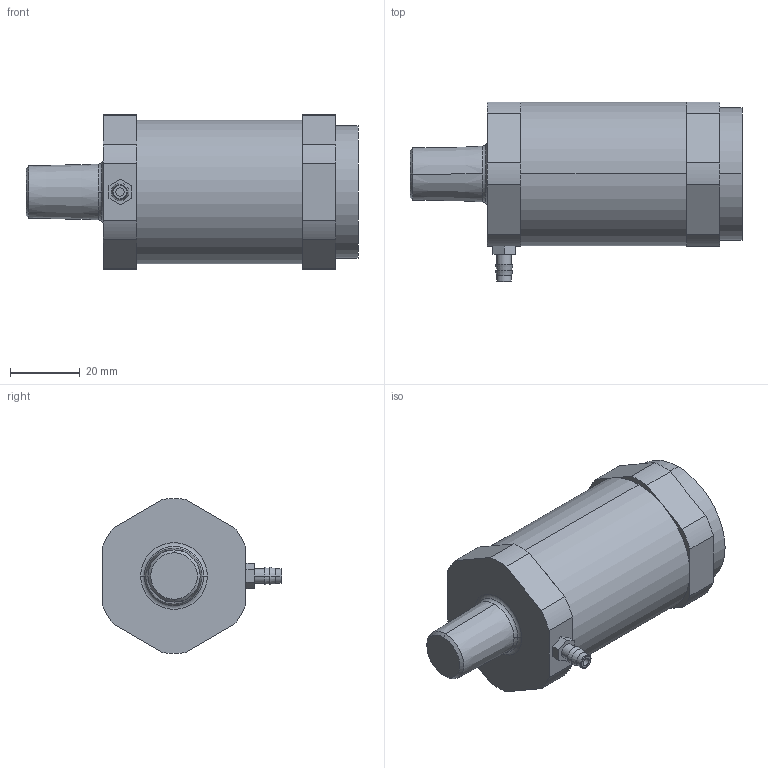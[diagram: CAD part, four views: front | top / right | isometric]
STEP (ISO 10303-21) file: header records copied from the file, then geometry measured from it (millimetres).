
FILE_DESCRIPTION((''),'2;1');
FILE_NAME('UC4_ASM','2017-08-24T',('jennifer.elliott'),('CenterLine (Windsor) Ltd - Automation Components Division'),'PRO/ENGINEER BY PARAMETRIC TECHNOLOGY CORPORATION, 2015030','PRO/ENGINEER BY PARAMETRIC TECHNOLOGY CORPORATION, 2015030','');
FILE_SCHEMA(('AUTOMOTIVE_DESIGN { 1 0 10303 214 1 1 1 1 }'));
Length unit declared in the file: inch
Products named in the file (6): PRT0059; PRT0060; PRT0061; PRT0062; PRT0063; UC4_ASM
Assembly tree (5 placements, depth 2):
  UC4_ASM
    PRT0059
    PRT0060
    PRT0061
    PRT0062
    PRT0063
Bounding box: 95.25 x 51.59 x 44.45 mm (x, y, z)
Volume: 102868 mm3; surface area: 21604.3 mm2
Topology: 5 solids, 5 shells, 70 faces, 183 edges, 127 vertices
Faces by surface type: plane 32, cylinder 22, torus 8, cone 8
Entity records: 2608 total; most frequent: DIRECTION 444, CARTESIAN_POINT 407, ORIENTED_EDGE 366, EDGE_CURVE 183, AXIS2_PLACEMENT_3D 180, VERTEX_POINT 127, CIRCLE 99, VECTOR 84
